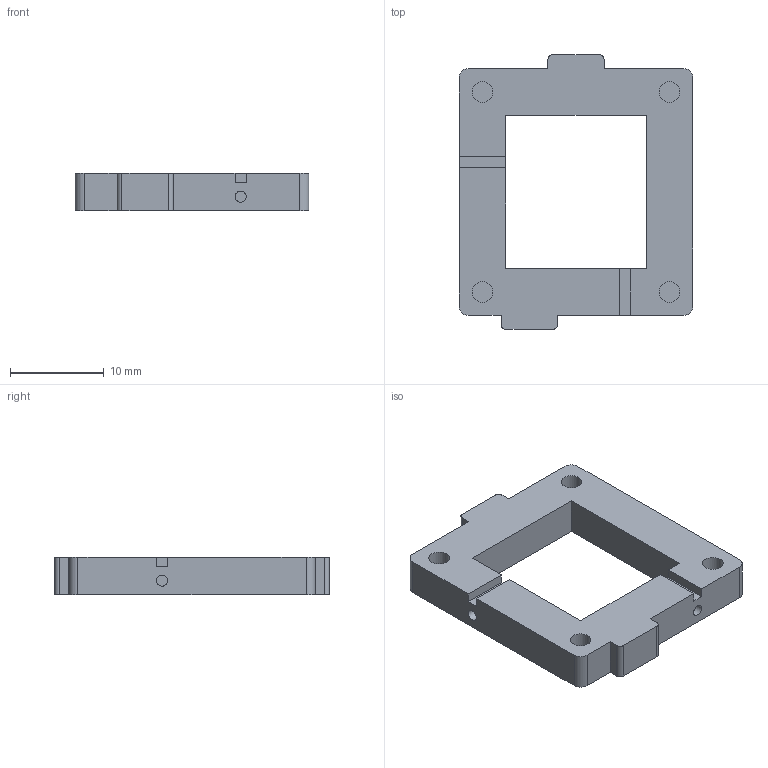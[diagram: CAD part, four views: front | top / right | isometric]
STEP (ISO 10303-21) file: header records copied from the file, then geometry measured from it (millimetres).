
FILE_DESCRIPTION(/* description */ (''),/* implementation_level */ '2;1');
FILE_NAME(/* name */ 'Supporto_Test_Splitter_Bottom.step',/* time_stamp */ '2023-03-13T17:27:10+01:00',/* author */ (''),/* organization */ (''),/* preprocessor_version */ 'ST-DEVELOPER v19.2',/* originating_system */ 'Autodesk Translation Framework v11.17.0.187',/* authorisation */ '');
FILE_SCHEMA (('AUTOMOTIVE_DESIGN { 1 0 10303 214 3 1 1 }'));
Length unit declared in the file: millimetre
Products named in the file (1): Supporto_Test_Splitter_Bottom
Bounding box: 25 x 29.4 x 4 mm (x, y, z)
Volume: 1670 mm3; surface area: 1641.6 mm2
Topology: 1 solids, 1 shells, 43 faces, 114 edges, 76 vertices
Faces by surface type: plane 29, cylinder 14
Full cylindrical faces by diameter (mm): 1.2 x2, 2.2 x4
Entity records: 1381 total; most frequent: CARTESIAN_POINT 234, DIRECTION 230, ORIENTED_EDGE 228, EDGE_CURVE 114, LINE 86, VECTOR 86, VERTEX_POINT 76, AXIS2_PLACEMENT_3D 72
